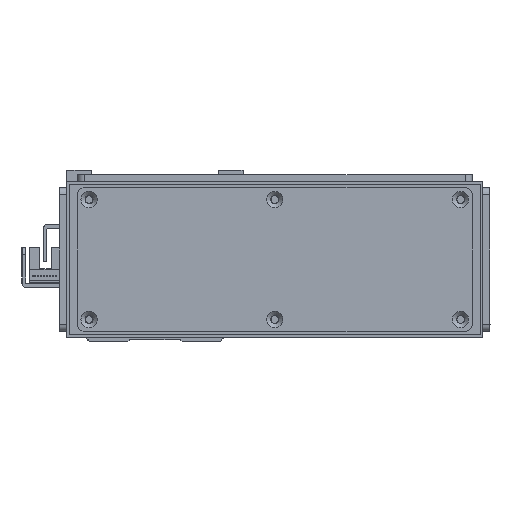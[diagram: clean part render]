
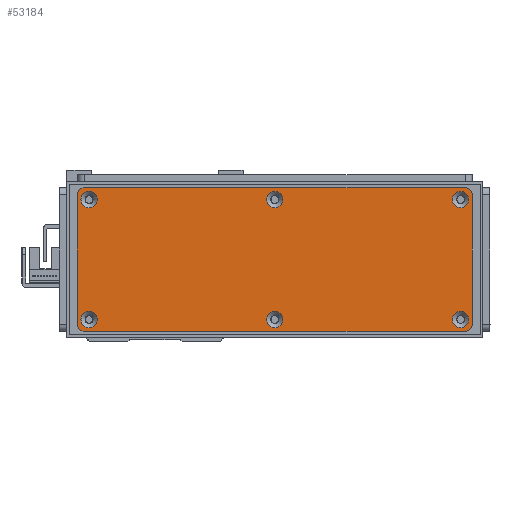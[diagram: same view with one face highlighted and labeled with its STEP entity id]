
A CAD part, left-side view. The second image highlights one B-rep face of the part: STEP entity #53184.
In plain terms, the highlighted planar face has unit normal (-1, 0, 0) as drawn and (0, 0, 1) by its records, which use the part's own axes.
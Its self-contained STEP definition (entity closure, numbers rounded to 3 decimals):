
#2457=FACE_BOUND('',#8788,.T.);
#2458=FACE_BOUND('',#8789,.T.);
#2459=FACE_BOUND('',#8790,.T.);
#2460=FACE_BOUND('',#8791,.T.);
#2461=FACE_BOUND('',#8792,.T.);
#2462=FACE_BOUND('',#8793,.T.);
#3083=PLANE('',#57396);
#5713=FACE_OUTER_BOUND('',#8787,.T.);
#8787=EDGE_LOOP('',(#42161,#42162,#42163,#42164,#42165,#42166,#42167,#42168));
#8788=EDGE_LOOP('',(#42169));
#8789=EDGE_LOOP('',(#42170));
#8790=EDGE_LOOP('',(#42171));
#8791=EDGE_LOOP('',(#42172));
#8792=EDGE_LOOP('',(#42173));
#8793=EDGE_LOOP('',(#42174));
#12228=LINE('',#79842,#18396);
#12231=LINE('',#79850,#18399);
#12234=LINE('',#79858,#18402);
#12237=LINE('',#79865,#18405);
#18396=VECTOR('',#65191,10.);
#18399=VECTOR('',#65200,10.);
#18402=VECTOR('',#65209,10.);
#18405=VECTOR('',#65218,10.);
#23951=CIRCLE('',#57350,3.45);
#23954=CIRCLE('',#57355,3.45);
#23957=CIRCLE('',#57360,3.45);
#23960=CIRCLE('',#57365,3.45);
#23963=CIRCLE('',#57370,3.45);
#23966=CIRCLE('',#57375,3.45);
#23973=CIRCLE('',#57385,3.);
#23974=CIRCLE('',#57388,3.);
#23975=CIRCLE('',#57391,3.);
#23976=CIRCLE('',#57394,3.);
#25968=VERTEX_POINT('',#79758);
#25971=VERTEX_POINT('',#79768);
#25974=VERTEX_POINT('',#79778);
#25977=VERTEX_POINT('',#79788);
#25980=VERTEX_POINT('',#79798);
#25983=VERTEX_POINT('',#79808);
#25994=VERTEX_POINT('',#79835);
#25995=VERTEX_POINT('',#79837);
#25996=VERTEX_POINT('',#79841);
#25997=VERTEX_POINT('',#79845);
#25998=VERTEX_POINT('',#79849);
#25999=VERTEX_POINT('',#79853);
#26000=VERTEX_POINT('',#79857);
#26001=VERTEX_POINT('',#79861);
#31859=EDGE_CURVE('',#25968,#25968,#23951,.T.);
#31864=EDGE_CURVE('',#25971,#25971,#23954,.T.);
#31869=EDGE_CURVE('',#25974,#25974,#23957,.T.);
#31874=EDGE_CURVE('',#25977,#25977,#23960,.T.);
#31879=EDGE_CURVE('',#25980,#25980,#23963,.T.);
#31884=EDGE_CURVE('',#25983,#25983,#23966,.T.);
#31898=EDGE_CURVE('',#25995,#25994,#23973,.T.);
#31900=EDGE_CURVE('',#25996,#25995,#12228,.T.);
#31902=EDGE_CURVE('',#25997,#25996,#23974,.T.);
#31904=EDGE_CURVE('',#25998,#25997,#12231,.T.);
#31906=EDGE_CURVE('',#25999,#25998,#23975,.T.);
#31908=EDGE_CURVE('',#26000,#25999,#12234,.T.);
#31910=EDGE_CURVE('',#26001,#26000,#23976,.T.);
#31912=EDGE_CURVE('',#25994,#26001,#12237,.T.);
#42161=ORIENTED_EDGE('',*,*,#31912,.T.);
#42162=ORIENTED_EDGE('',*,*,#31910,.T.);
#42163=ORIENTED_EDGE('',*,*,#31908,.T.);
#42164=ORIENTED_EDGE('',*,*,#31906,.T.);
#42165=ORIENTED_EDGE('',*,*,#31904,.T.);
#42166=ORIENTED_EDGE('',*,*,#31902,.T.);
#42167=ORIENTED_EDGE('',*,*,#31900,.T.);
#42168=ORIENTED_EDGE('',*,*,#31898,.T.);
#42169=ORIENTED_EDGE('',*,*,#31859,.T.);
#42170=ORIENTED_EDGE('',*,*,#31864,.T.);
#42171=ORIENTED_EDGE('',*,*,#31869,.T.);
#42172=ORIENTED_EDGE('',*,*,#31874,.T.);
#42173=ORIENTED_EDGE('',*,*,#31879,.T.);
#42174=ORIENTED_EDGE('',*,*,#31884,.T.);
#53184=ADVANCED_FACE('',(#5713,#2457,#2458,#2459,#2460,#2461,#2462),#3083,
 .T.);
#57350=AXIS2_PLACEMENT_3D('',#79759,#65099,#65100);
#57355=AXIS2_PLACEMENT_3D('',#79769,#65111,#65112);
#57360=AXIS2_PLACEMENT_3D('',#79779,#65123,#65124);
#57365=AXIS2_PLACEMENT_3D('',#79789,#65135,#65136);
#57370=AXIS2_PLACEMENT_3D('',#79799,#65147,#65148);
#57375=AXIS2_PLACEMENT_3D('',#79809,#65159,#65160);
#57385=AXIS2_PLACEMENT_3D('',#79838,#65186,#65187);
#57388=AXIS2_PLACEMENT_3D('',#79846,#65195,#65196);
#57391=AXIS2_PLACEMENT_3D('',#79854,#65204,#65205);
#57394=AXIS2_PLACEMENT_3D('',#79862,#65213,#65214);
#57396=AXIS2_PLACEMENT_3D('',#79866,#65219,#65220);
#65099=DIRECTION('center_axis',(0.,0.,-1.));
#65100=DIRECTION('ref_axis',(1.,0.,0.));
#65111=DIRECTION('center_axis',(0.,0.,-1.));
#65112=DIRECTION('ref_axis',(1.,0.,0.));
#65123=DIRECTION('center_axis',(0.,0.,-1.));
#65124=DIRECTION('ref_axis',(1.,0.,0.));
#65135=DIRECTION('center_axis',(0.,0.,-1.));
#65136=DIRECTION('ref_axis',(1.,0.,0.));
#65147=DIRECTION('center_axis',(0.,0.,-1.));
#65148=DIRECTION('ref_axis',(1.,0.,0.));
#65159=DIRECTION('center_axis',(0.,0.,-1.));
#65160=DIRECTION('ref_axis',(1.,0.,0.));
#65186=DIRECTION('center_axis',(0.,0.,1.));
#65187=DIRECTION('ref_axis',(-1.,0.,0.));
#65191=DIRECTION('',(0.,1.,0.));
#65195=DIRECTION('center_axis',(0.,0.,1.));
#65196=DIRECTION('ref_axis',(0.,1.,0.));
#65200=DIRECTION('',(1.,0.,0.));
#65204=DIRECTION('center_axis',(0.,0.,1.));
#65205=DIRECTION('ref_axis',(1.,0.,0.));
#65209=DIRECTION('',(0.,-1.,0.));
#65213=DIRECTION('center_axis',(0.,0.,1.));
#65214=DIRECTION('ref_axis',(0.,-1.,0.));
#65218=DIRECTION('',(-1.,0.,0.));
#65219=DIRECTION('center_axis',(0.,0.,1.));
#65220=DIRECTION('ref_axis',(1.,0.,0.));
#79758=CARTESIAN_POINT('',(-3.45,25.5,1.5));
#79759=CARTESIAN_POINT('Origin',(0.,25.5,1.5));
#79768=CARTESIAN_POINT('',(75.55,-25.5,1.5));
#79769=CARTESIAN_POINT('Origin',(79.,-25.5,1.5));
#79778=CARTESIAN_POINT('',(-82.45,25.5,1.5));
#79779=CARTESIAN_POINT('Origin',(-79.,25.5,1.5));
#79788=CARTESIAN_POINT('',(75.55,25.5,1.5));
#79789=CARTESIAN_POINT('Origin',(79.,25.5,1.5));
#79798=CARTESIAN_POINT('',(-82.45,-25.5,1.5));
#79799=CARTESIAN_POINT('Origin',(-79.,-25.5,1.5));
#79808=CARTESIAN_POINT('',(-3.45,-25.5,1.5));
#79809=CARTESIAN_POINT('Origin',(0.,-25.5,1.5));
#79835=CARTESIAN_POINT('',(81.,30.5,1.5));
#79837=CARTESIAN_POINT('',(84.,27.5,1.5));
#79838=CARTESIAN_POINT('Origin',(81.,27.5,1.5));
#79841=CARTESIAN_POINT('',(84.,-27.5,1.5));
#79842=CARTESIAN_POINT('',(84.,27.5,1.5));
#79845=CARTESIAN_POINT('',(81.,-30.5,1.5));
#79846=CARTESIAN_POINT('Origin',(81.,-27.5,1.5));
#79849=CARTESIAN_POINT('',(-81.,-30.5,1.5));
#79850=CARTESIAN_POINT('',(81.,-30.5,1.5));
#79853=CARTESIAN_POINT('',(-84.,-27.5,1.5));
#79854=CARTESIAN_POINT('Origin',(-81.,-27.5,1.5));
#79857=CARTESIAN_POINT('',(-84.,27.5,1.5));
#79858=CARTESIAN_POINT('',(-84.,-27.5,1.5));
#79861=CARTESIAN_POINT('',(-81.,30.5,1.5));
#79862=CARTESIAN_POINT('Origin',(-81.,27.5,1.5));
#79865=CARTESIAN_POINT('',(-81.,30.5,1.5));
#79866=CARTESIAN_POINT('Origin',(0.,0.,
1.5));
